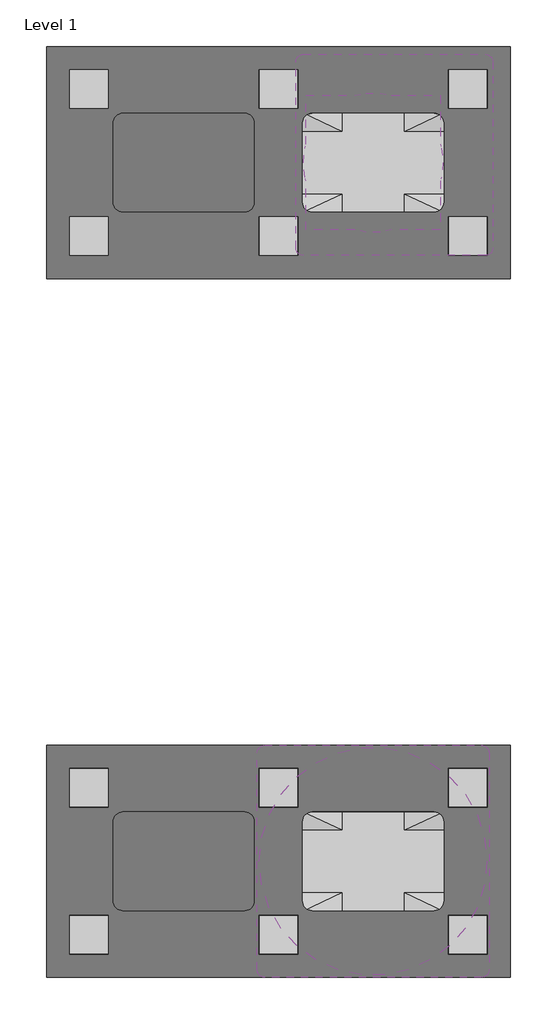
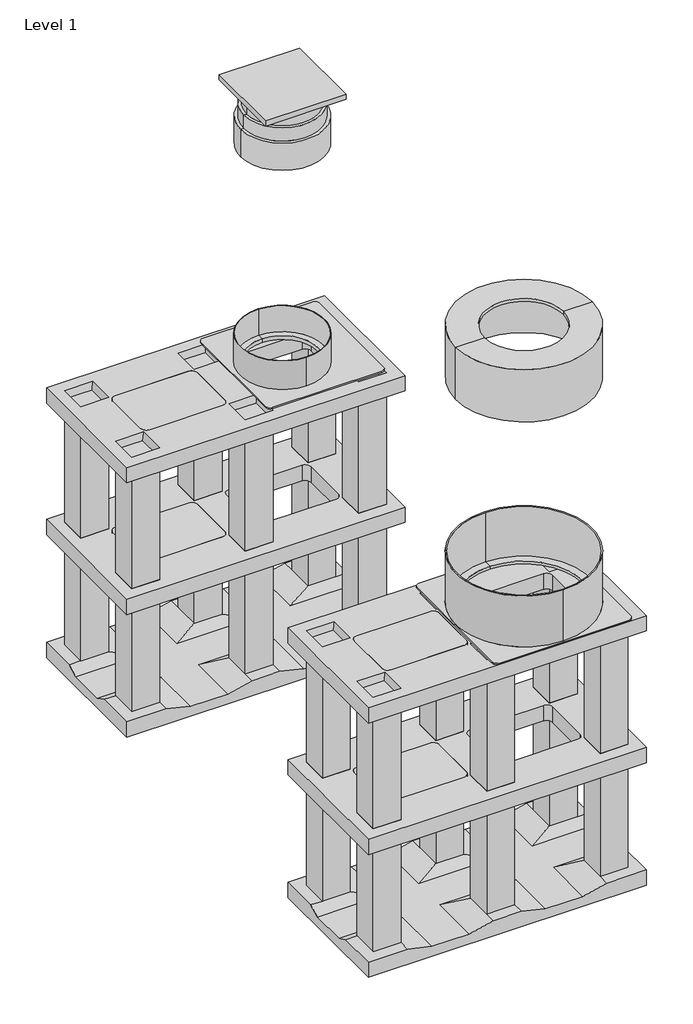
# One storey, incomplete: 8 unitary equipment elements, 2 pipe fittings.
"""IFC4 building model written with IfcOpenShell, lengths in millimetres."""

from ifc_helpers import new_model, si_unit, origin, place, context, project, spatial, transform, mapped, element, save
from components import cast_iron_ral9200_8530f1dc, cast_iron_ral9200_6ea693ea, closed_bottom_plate_7d425a97, std_7f29cd48, vertical_tw_6a955b7c, vertical_tw_2c09a284

model = new_model("IFC4")

# Units and contexts
model_context = context("Model", 3, world=origin())
ifc_project = project(units=[si_unit("LENGTHUNIT", "METRE", prefix="MILLI")], contexts=[model_context])

# Site, building, storey
site = spatial("IfcSite", under=ifc_project)
building = spatial("IfcBuilding", under=site)
storey = spatial("IfcBuildingStorey", under=building, Name="Level 1", Elevation=0.0)

# Pipe fittings
placement = place(None, origin())
cast_iron_ral9200_shape = cast_iron_ral9200_8530f1dc(model_context)
element("IfcPipeFitting", 1, ObjectType="Wavin_PipeFitting_QBicPlusZDoNotUseAccessCap : Cast iron, RAL9200", at=placement, inside=storey, context=model_context, shape_type="MappedRepresentation", body=[
    mapped(cast_iron_ral9200_shape, transform((12778.1943714, 5477.766862, 2500.0), x_axis=(1.0, 0.0, 0.0), y_axis=(0.0, 1.0, 0.0), z_axis=(0.0, 0.0, 1.0))),
])
cast_iron_ral9200_2_shape = cast_iron_ral9200_6ea693ea(model_context)
element("IfcPipeFitting", 2, ObjectType="Wavin_PipeFitting_QBicPlusZDoNotUseCover300 : Cast iron, RAL9200", at=placement, inside=storey, context=model_context, shape_type="MappedRepresentation", body=[
    mapped(cast_iron_ral9200_2_shape, transform((12778.1943714, 7283.7008735, 2500.0), x_axis=(1.0, 0.0, 0.0), y_axis=(0.0, 1.0, 0.0), z_axis=(0.0, 0.0, 1.0))),
])

# Unitary equipment
closed_bottom_plate_shape = closed_bottom_plate_7d425a97(model_context)
element("IfcUnitaryEquipment", 3, ObjectType="Wavin_MechanicalEquipment_QBicPlusZDoNotUseBottomPlate : Closed bottom plate", at=placement, inside=storey, context=model_context, shape_type="MappedRepresentation", body=[
    mapped(closed_bottom_plate_shape, transform((11933.1943714, 5177.766862, 70.0), x_axis=(1.0, 0.0, 0.0), y_axis=(0.0, 1.0, 0.0), z_axis=(0.0, 0.0, 1.0))),
])
element("IfcUnitaryEquipment", 4, ObjectType="Wavin_MechanicalEquipment_QBicPlusZDoNotUseBottomPlate : Closed bottom plate", at=placement, inside=storey, context=model_context, shape_type="MappedRepresentation", body=[
    mapped(closed_bottom_plate_shape, transform((11933.1943714, 6983.7008735, 70.0), x_axis=(1.0, 0.0, 0.0), y_axis=(0.0, 1.0, 0.0), z_axis=(0.0, 0.0, 1.0))),
])
std_shape = std_7f29cd48(model_context)
element("IfcUnitaryEquipment", 5, ObjectType="Wavin_MechanicalEquipment_QBicPlusZDoNotUseInfiltrationUnit : std", at=placement, inside=storey, context=model_context, shape_type="MappedRepresentation", body=[
    mapped(std_shape, transform((11933.1943714, 5177.766862, 30.0), x_axis=(1.0, 0.0, 0.0), y_axis=(0.0, 1.0, 0.0), z_axis=(0.0, 0.0, 1.0))),
])
element("IfcUnitaryEquipment", 6, ObjectType="Wavin_MechanicalEquipment_QBicPlusZDoNotUseInfiltrationUnit : std", at=placement, inside=storey, context=model_context, shape_type="MappedRepresentation", body=[
    mapped(std_shape, transform((11933.1943714, 5177.766862, 630.0), x_axis=(1.0, 0.0, 0.0), y_axis=(0.0, 1.0, 0.0), z_axis=(0.0, 0.0, 1.0))),
])
element("IfcUnitaryEquipment", 7, ObjectType="Wavin_MechanicalEquipment_QBicPlusZDoNotUseInfiltrationUnit : std", at=placement, inside=storey, context=model_context, shape_type="MappedRepresentation", body=[
    mapped(std_shape, transform((11933.1943714, 6983.7008735, 30.0), x_axis=(1.0, 0.0, 0.0), y_axis=(0.0, 1.0, 0.0), z_axis=(0.0, 0.0, 1.0))),
])
element("IfcUnitaryEquipment", 8, ObjectType="Wavin_MechanicalEquipment_QBicPlusZDoNotUseInfiltrationUnit : std", at=placement, inside=storey, context=model_context, shape_type="MappedRepresentation", body=[
    mapped(std_shape, transform((11933.1943714, 6983.7008735, 630.0), x_axis=(1.0, 0.0, 0.0), y_axis=(0.0, 1.0, 0.0), z_axis=(0.0, 0.0, 1.0))),
])
vertical_tw_shape = vertical_tw_6a955b7c(model_context)
element("IfcUnitaryEquipment", 9, ObjectType="Wavin_MechanicalEquipment_QBicPlusZDoNotUsePipeAdaptor : vertical TW", at=placement, inside=storey, context=model_context, shape_type="MappedRepresentation", body=[
    mapped(vertical_tw_shape, transform((12778.1943714, 7283.7008735, 1230.0), x_axis=(0.0, 1.0000000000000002, 0.0), y_axis=(-1.0000000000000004, 0.0, 0.0), z_axis=(0.0, 0.0, 1.0000000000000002))),
])
vertical_tw_2_shape = vertical_tw_2c09a284(model_context)
element("IfcUnitaryEquipment", 10, ObjectType="Wavin_MechanicalEquipment_QBicPlusZDoNotUsePipeAdaptor : vertical TW", at=placement, inside=storey, context=model_context, shape_type="MappedRepresentation", body=[
    mapped(vertical_tw_2_shape, transform((12778.1943714, 5477.766862, 1230.0), x_axis=(0.0, 1.0000000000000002, 0.0), y_axis=(-1.0000000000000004, 0.0, 0.0), z_axis=(0.0, 0.0, 1.0000000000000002))),
])

save(model, "model.ifc")
